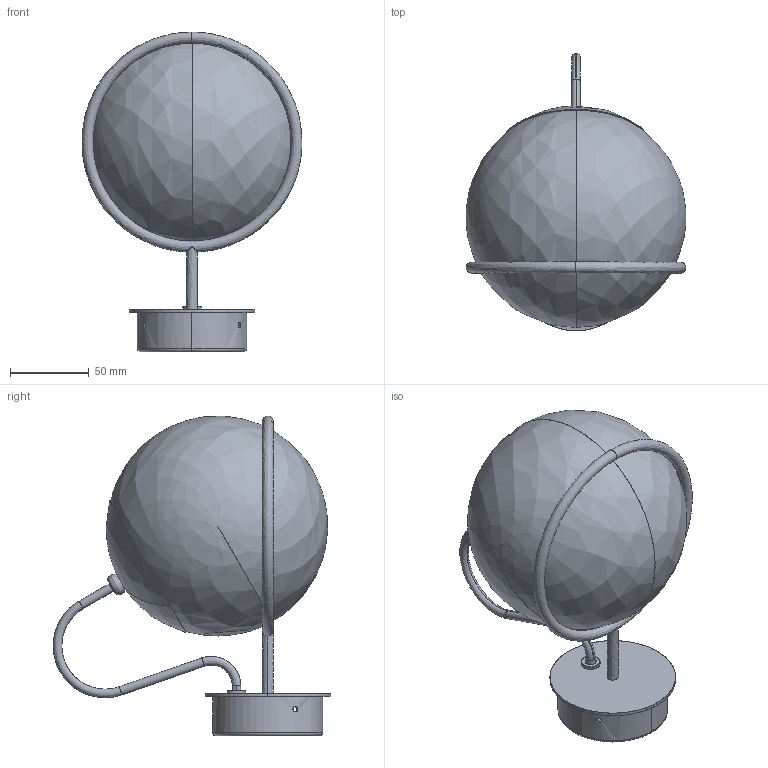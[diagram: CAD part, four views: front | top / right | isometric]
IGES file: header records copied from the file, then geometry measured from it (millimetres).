
Global section: file name: /Users/nicholas/Downloads/Astep - CAD - Model 237-1/Model 237:1.igs; preprocessor: Trout Lake IGES 012 May 14 2018; date: 190227.154706; units: millimetre
Bounding box: 140 x 176.59 x 203.49 mm (x, y, z)
Surface area: 168060.2 mm2 (no closed solid volume)
Topology: 0 solids, 0 shells, 95 faces, 562 edges, 553 vertices
Faces by surface type: bspline 95
